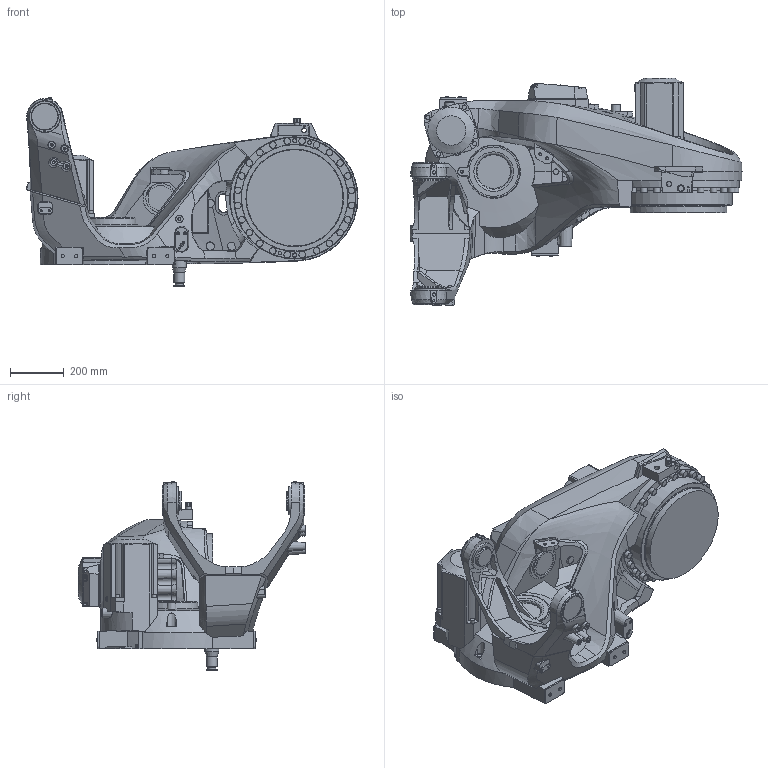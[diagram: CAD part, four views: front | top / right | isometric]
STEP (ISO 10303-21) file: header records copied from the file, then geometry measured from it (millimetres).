
FILE_DESCRIPTION (( 'STEP AP214' ), '1' );
FILE_NAME ('IRB6750S_All_OC_00_LINK01_CAD.step', '2026-05-07T13:40:17', ( '' ), ( '' ), 'SwSTEP 2.0', 'SolidWorks 2024', '' );
FILE_SCHEMA (( 'AUTOMOTIVE_DESIGN' ));
Length unit declared in the file: millimetre
Products named in the file (1): IRB6750S_All_OC_00_LINK01_CAD
Bounding box: 1237.99 x 848.5 x 707.36 mm (x, y, z)
Volume: 108915425.1 mm3; surface area: 3986764.5 mm2
Topology: 5 solids, 6 shells, 1661 faces, 4421 edges, 2910 vertices
Faces by surface type: plane 790, cone 320, cylinder 263, bspline 236, torus 50, sphere 2
Full cylindrical faces by diameter (mm): 4.8 x1, 5 x20, 8 x2, 8.5 x12, 9.5 x4, 10 x1, 10.2 x2, 12 x12, 13 x2, 14 x22, 16.27 x8, 17 x8, 17.5 x1, 17.7 x1, 17.9 x1, 18 x2, 19.5 x1, 19.7 x2, 19.93 x1, 20 x5, 23 x1, 24.33 x24, 25 x1, 27 x3, 30 x1, 40 x2, 53 x1, 59.75 x1, 60 x1, 71 x2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
Entity records: 95380 total; most frequent: CARTESIAN_POINT 57890, ORIENTED_EDGE 7748, DIRECTION 6310, EDGE_CURVE 3874, VERTEX_POINT 2735, AXIS2_PLACEMENT_3D 2384, EDGE_LOOP 2189, FACE_OUTER_BOUND 1860
